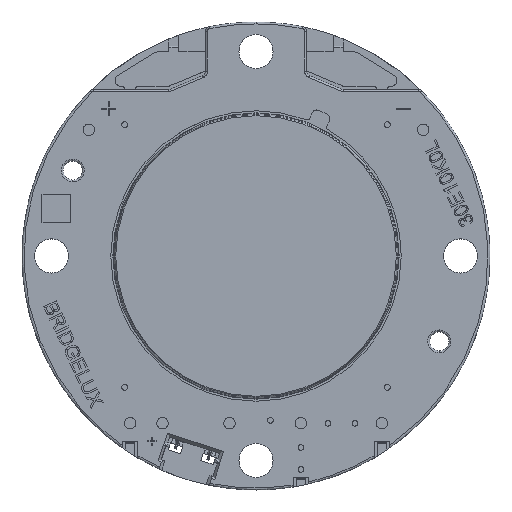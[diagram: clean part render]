
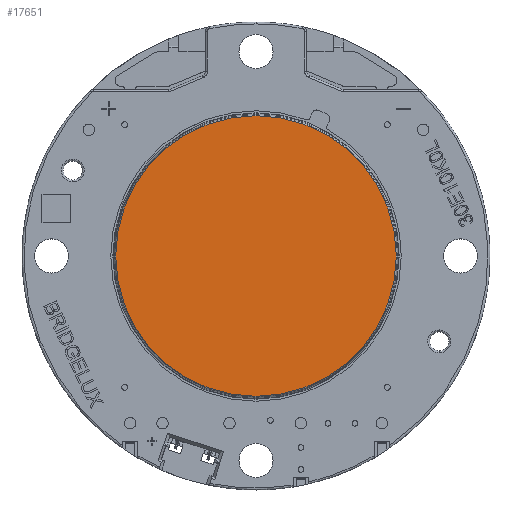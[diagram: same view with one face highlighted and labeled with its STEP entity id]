
A CAD part, top view. The second image highlights one B-rep face of the part: STEP entity #17651.
In plain terms, the highlighted planar face has unit normal (0, 0, 1) as drawn and (0, 1, 0) by its records, which use the part's own axes.
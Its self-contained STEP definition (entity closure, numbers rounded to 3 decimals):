
#364 = EDGE_CURVE ( 'NONE', #5561, #40172, #27142, .T. ) ;
#496 = AXIS2_PLACEMENT_3D ( 'NONE', #27315, #6665, #30815 ) ;
#3839 = AXIS2_PLACEMENT_3D ( 'NONE', #3954, #28081, #7446 ) ;
#3954 = CARTESIAN_POINT ( 'NONE',  ( 0., 0.55, 0. ) ) ;
#5561 = VERTEX_POINT ( 'NONE', #23125 ) ;
#6528 = EDGE_LOOP ( 'NONE', ( #17283, #16049 ) ) ;
#6665 = DIRECTION ( 'NONE',  ( 0., -1., 0. ) ) ;
#7446 = DIRECTION ( 'NONE',  ( 0., 0., -1. ) ) ;
#13806 = DIRECTION ( 'NONE',  ( 0., 0., 1. ) ) ;
#13811 = FACE_OUTER_BOUND ( 'NONE', #6528, .T. ) ;
#16049 = ORIENTED_EDGE ( 'NONE', *, *, #40533, .F. ) ;
#17283 = ORIENTED_EDGE ( 'NONE', *, *, #364, .F. ) ;
#17651 = ADVANCED_FACE ( 'NONE', ( #13811 ), #44740, .T. ) ;
#22070 = CIRCLE ( 'NONE', #496, 14.75 ) ;
#23125 = CARTESIAN_POINT ( 'NONE',  ( 0., 0.55, -14.75 ) ) ;
#24645 = CARTESIAN_POINT ( 'NONE',  ( 0., 0.55, 14.75 ) ) ;
#27142 = CIRCLE ( 'NONE', #3839, 14.75 ) ;
#27315 = CARTESIAN_POINT ( 'NONE',  ( 0., 0.55, 0. ) ) ;
#28081 = DIRECTION ( 'NONE',  ( 0., -1., 0. ) ) ;
#30815 = DIRECTION ( 'NONE',  ( 0., 0., -1. ) ) ;
#34456 = DIRECTION ( 'NONE',  ( 0., 1., 0. ) ) ;
#37285 = AXIS2_PLACEMENT_3D ( 'NONE', #41293, #34456, #13806 ) ;
#40172 = VERTEX_POINT ( 'NONE', #24645 ) ;
#40533 = EDGE_CURVE ( 'NONE', #40172, #5561, #22070, .T. ) ;
#41293 = CARTESIAN_POINT ( 'NONE',  ( 0., 0.55, -14.75 ) ) ;
#44740 = PLANE ( 'NONE',  #37285 ) ;
